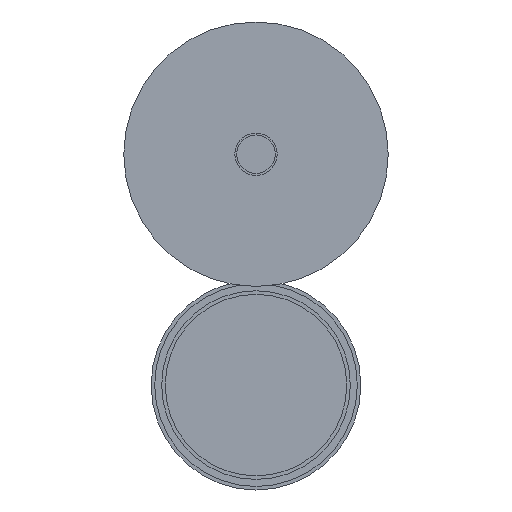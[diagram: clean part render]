
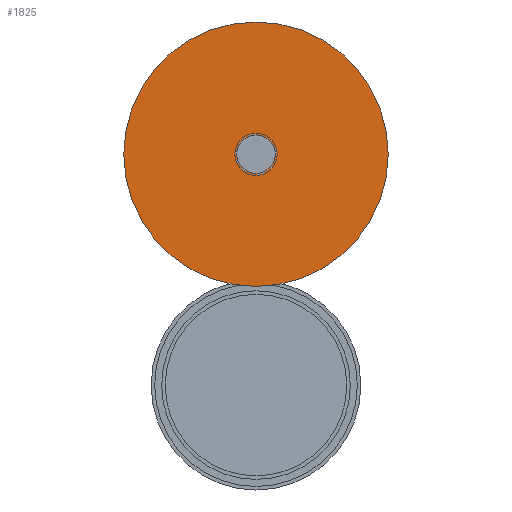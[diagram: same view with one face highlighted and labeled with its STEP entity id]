
A CAD part, front view. The second image highlights one B-rep face of the part: STEP entity #1825.
In plain terms, the highlighted planar face has unit normal (0, -1, 0).
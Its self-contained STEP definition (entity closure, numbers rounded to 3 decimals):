
#48=PLANE('',#1991);
#114=FACE_BOUND('',#367,.T.);
#147=CIRCLE('',#1990,10.918);
#148=CIRCLE('',#1992,75.);
#237=FACE_OUTER_BOUND('',#366,.T.);
#366=EDGE_LOOP('',(#1226));
#367=EDGE_LOOP('',(#1227));
#791=VERTEX_POINT('',#2872);
#792=VERTEX_POINT('',#2876);
#951=EDGE_CURVE('',#791,#791,#147,.T.);
#952=EDGE_CURVE('',#792,#792,#148,.T.);
#1226=ORIENTED_EDGE('',*,*,#952,.T.);
#1227=ORIENTED_EDGE('',*,*,#951,.F.);
#1825=ADVANCED_FACE('',(#237,#114),#48,.F.);
#1990=AXIS2_PLACEMENT_3D('',#2874,#2253,#2254);
#1991=AXIS2_PLACEMENT_3D('',#2875,#2255,#2256);
#1992=AXIS2_PLACEMENT_3D('',#2877,#2257,#2258);
#2253=DIRECTION('center_axis',(0.,-1.,0.));
#2254=DIRECTION('ref_axis',(-1.,0.,0.));
#2255=DIRECTION('center_axis',(0.,1.,0.));
#2256=DIRECTION('ref_axis',(0.,0.,
-1.));
#2257=DIRECTION('center_axis',(0.,-1.,0.));
#2258=DIRECTION('ref_axis',(-1.,0.,0.));
#2872=CARTESIAN_POINT('',(10.918,0.,0.));
#2874=CARTESIAN_POINT('Origin',(0.,0.,0.));
#2875=CARTESIAN_POINT('Origin',(0.,0.,
0.));
#2876=CARTESIAN_POINT('',(75.,0.,0.));
#2877=CARTESIAN_POINT('Origin',(0.,0.,0.));
